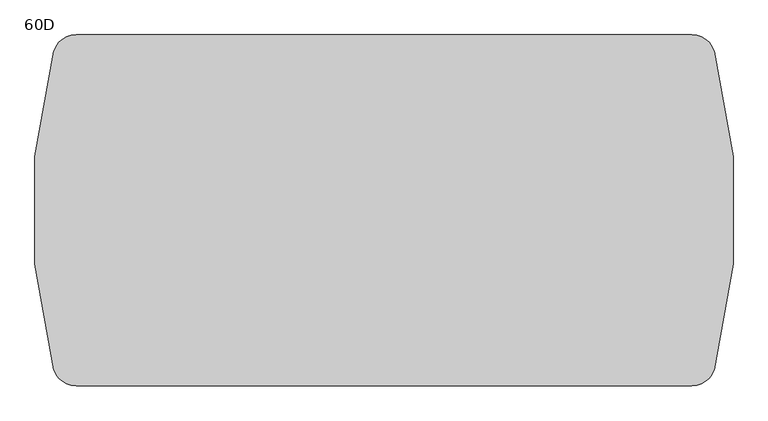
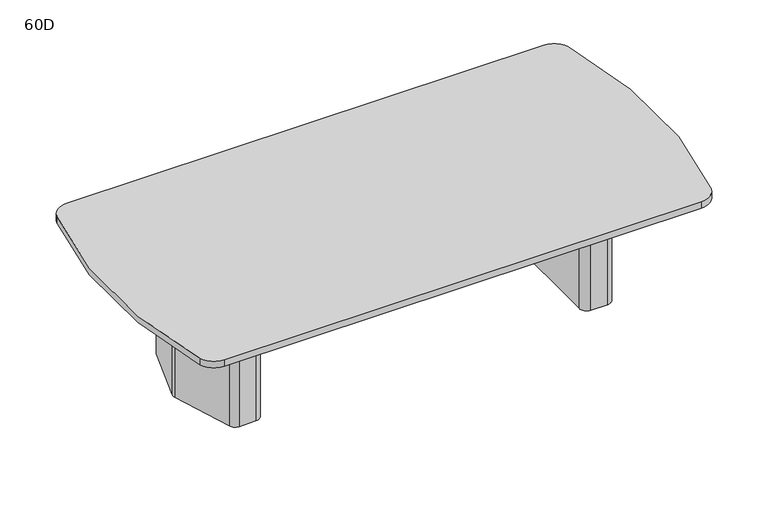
"""IFC4 building model written with IfcOpenShell, lengths in millimetres: furniture geometry, Coalesse_AM_Table_Conference_ETable2_SoftRadiused_10ft_TwoBase : 60D."""

from ifc_helpers import new_model, si_unit, point, frame, frame_2d, origin, origin_with_axes, place, context, project, spatial, polyline, circle_curve, trimmed, segment, composite_curve, outline, extrude, source, transform, mapped, element, save
from ifc_brep_helpers import plane_surface, cylinder_surface, advanced_brep


def furniture_60d_33068e7c(model_context):
    return source(origin(), model_context, "Body", "SolidModel", [
        extrude(outline(composite_curve([segment(polyline([(1122.3625, 101.7236478), (1122.3625, -97.2761514)]), True, "CONTINUOUS"), segment(trimmed(circle_curve(frame_2d((1084.2625, -97.2761514)), 38.1), [point((1122.3625, -97.2761514))], [point((1120.5991129, -108.7330515))], False, "CARTESIAN"), True, "CONTINUOUS"), segment(polyline([(1120.5991129, -108.7330515), (1062.1745591, -294.0319001)]), True, "CONTINUOUS"), segment(trimmed(circle_curve(frame_2d((1025.8379462, -282.575)), 38.1), [point((1062.1745591, -294.0319001))], [point((1025.8379462, -320.675))], False, "CARTESIAN"), True, "CONTINUOUS"), segment(polyline([(1025.8379462, -320.675), (958.85, -320.675)]), True, "CONTINUOUS"), segment(trimmed(circle_curve(frame_2d((958.85, -282.575)), 38.1), [point((958.85, -320.675))], [point((920.75, -282.575))], False, "CARTESIAN"), True, "CONTINUOUS"), segment(polyline([(920.75, -282.575), (920.75, 282.575)]), True, "CONTINUOUS"), segment(trimmed(circle_curve(frame_2d((958.85, 282.575)), 38.1), [point((920.75, 282.575))], [point((958.85, 320.675))], False, "CARTESIAN"), True, "CONTINUOUS"), segment(polyline([(958.85, 320.675), (1029.5873998, 320.675)]), True, "CONTINUOUS"), segment(trimmed(circle_curve(frame_2d((1029.5873998, 282.575)), 38.1), [point((1029.5873998, 320.675))], [point((1066.0572049, 293.6005756))], False, "CARTESIAN"), True, "CONTINUOUS"), segment(polyline([(1066.0572049, 293.6005756), (1120.7323051, 112.7492234)]), True, "CONTINUOUS"), segment(trimmed(circle_curve(frame_2d((1084.2625, 101.7236478)), 38.1), [point((1120.7323051, 112.7492234))], [point((1122.3625, 101.7236478))], False, "CARTESIAN"), True, "CONTINUOUS")], self_intersect=False)), origin_with_axes(), (0.0, 0.0, 1.0), 3.175),
        extrude(outline(composite_curve([segment(polyline([(942.975, 381.0), (1031.1221663, 381.0)]), True, "CONTINUOUS"), segment(trimmed(circle_curve(frame_2d((1031.1221663, 339.725)), 41.275), [point((1031.1221663, 381.0))], [point((1070.4868303, 352.1366418))], False, "CARTESIAN"), True, "CONTINUOUS"), segment(polyline([(1070.4868303, 352.1366418), (1177.6018053, 12.4116418)]), True, "CONTINUOUS"), segment(trimmed(circle_curve(frame_2d((1138.2371413, 0.0)), 41.275), [point((1177.6018053, 12.4116418))], [point((1177.6018053, -12.4116418))], False, "CARTESIAN"), True, "CONTINUOUS"), segment(polyline([(1177.6018053, -12.4116418), (1070.4868303, -352.1366418)]), True, "CONTINUOUS"), segment(trimmed(circle_curve(frame_2d((1031.1221663, -339.725)), 41.275), [point((1070.4868303, -352.1366418))], [point((1031.1221663, -381.0))], False, "CARTESIAN"), True, "CONTINUOUS"), segment(polyline([(1031.1221663, -381.0), (936.625, -381.0)]), True, "CONTINUOUS"), segment(trimmed(circle_curve(frame_2d((936.625, -339.725)), 41.275), [point((936.625, -381.0))], [point((895.35, -339.725))], False, "CARTESIAN"), True, "CONTINUOUS"), segment(polyline([(895.35, -339.725), (895.35, 333.375)]), True, "CONTINUOUS"), segment(trimmed(circle_curve(frame_2d((942.975, 333.375)), 47.625), [point((895.35, 333.375))], [point((942.975, 381.0))], False, "CARTESIAN"), True, "CONTINUOUS")], self_intersect=False), holes=[composite_curve([segment(trimmed(circle_curve(frame_2d((958.85, -282.575)), 25.4), [point((933.45, -282.575))], [point((958.85, -307.975))], True, "CARTESIAN"), True, "CONTINUOUS"), segment(polyline([(958.85, -307.975), (1025.8379462, -307.975)]), True, "CONTINUOUS"), segment(trimmed(circle_curve(frame_2d((1025.8379462, -282.575)), 25.4), [point((1025.8379462, -307.975))], [point((1050.0623548, -290.2129334))], True, "CARTESIAN"), True, "CONTINUOUS"), segment(polyline([(1050.0623548, -290.2129334), (1108.4869086, -104.9140848)]), True, "CONTINUOUS"), segment(trimmed(circle_curve(frame_2d((1084.2625, -97.2761514)), 25.4), [point((1108.4869086, -104.9140848))], [point((1109.6625, -97.2761514))], True, "CARTESIAN"), True, "CONTINUOUS"), segment(polyline([(1109.6625, -97.2761514), (1109.6625, 101.7236478)]), True, "CONTINUOUS"), segment(trimmed(circle_curve(frame_2d((1084.2625, 101.7236478)), 25.4), [point((1109.6625, 101.7236478))], [point((1108.5757034, 109.0740316))], True, "CARTESIAN"), True, "CONTINUOUS"), segment(polyline([(1108.5757034, 109.0740316), (1053.9006032, 289.9253837)]), True, "CONTINUOUS"), segment(trimmed(circle_curve(frame_2d((1029.5873998, 282.575)), 25.4), [point((1053.9006032, 289.9253837))], [point((1029.5873998, 307.975))], True, "CARTESIAN"), True, "CONTINUOUS"), segment(polyline([(1029.5873998, 307.975), (958.85, 307.975)]), True, "CONTINUOUS"), segment(trimmed(circle_curve(frame_2d((958.85, 282.575)), 25.4), [point((958.85, 307.975))], [point((933.45, 282.575))], True, "CARTESIAN"), True, "CONTINUOUS"), segment(polyline([(933.45, 282.575), (933.45, -282.575)]), True, "CONTINUOUS")], self_intersect=False)]), frame((0.0, 0.0, 3.175), z_axis=(0.0, 0.0, 1.0), x_axis=(1.0, 0.0, 0.0)), (0.0, 0.0, 1.0), 695.325),
        extrude(outline(composite_curve([segment(trimmed(circle_curve(frame_2d((-1084.2625, 101.7236478)), 38.1), [point((-1122.3625, 101.7236478))], [point((-1120.7323051, 112.7492234))], False, "CARTESIAN"), True, "CONTINUOUS"), segment(polyline([(-1120.7323051, 112.7492234), (-1066.0572049, 293.6005756)]), True, "CONTINUOUS"), segment(trimmed(circle_curve(frame_2d((-1029.5873998, 282.575)), 38.1), [point((-1066.0572049, 293.6005756))], [point((-1029.5873998, 320.675))], False, "CARTESIAN"), True, "CONTINUOUS"), segment(polyline([(-1029.5873998, 320.675), (-958.85, 320.675)]), True, "CONTINUOUS"), segment(trimmed(circle_curve(frame_2d((-958.85, 282.575)), 38.1), [point((-958.85, 320.675))], [point((-920.75, 282.575))], False, "CARTESIAN"), True, "CONTINUOUS"), segment(polyline([(-920.75, 282.575), (-920.75, -282.575)]), True, "CONTINUOUS"), segment(trimmed(circle_curve(frame_2d((-958.85, -282.575)), 38.1), [point((-920.75, -282.575))], [point((-958.85, -320.675))], False, "CARTESIAN"), True, "CONTINUOUS"), segment(polyline([(-958.85, -320.675), (-1025.8379462, -320.675)]), True, "CONTINUOUS"), segment(trimmed(circle_curve(frame_2d((-1025.8379462, -282.575)), 38.1), [point((-1025.8379462, -320.675))], [point((-1062.1745591, -294.0319001))], False, "CARTESIAN"), True, "CONTINUOUS"), segment(polyline([(-1062.1745591, -294.0319001), (-1120.5991129, -108.7330515)]), True, "CONTINUOUS"), segment(trimmed(circle_curve(frame_2d((-1084.2625, -97.2761514)), 38.1), [point((-1120.5991129, -108.7330515))], [point((-1122.3625, -97.2761514))], False, "CARTESIAN"), True, "CONTINUOUS"), segment(polyline([(-1122.3625, -97.2761514), (-1122.3625, 101.7236478)]), True, "CONTINUOUS")], self_intersect=False)), origin_with_axes(), (0.0, 0.0, 1.0), 3.175),
        extrude(outline(composite_curve([segment(trimmed(circle_curve(frame_2d((-942.975, 333.375)), 47.625), [point((-942.975, 381.0))], [point((-895.35, 333.375))], False, "CARTESIAN"), True, "CONTINUOUS"), segment(polyline([(-895.35, 333.375), (-895.35, -339.725)]), True, "CONTINUOUS"), segment(trimmed(circle_curve(frame_2d((-936.625, -339.725)), 41.275), [point((-895.35, -339.725))], [point((-936.625, -381.0))], False, "CARTESIAN"), True, "CONTINUOUS"), segment(polyline([(-936.625, -381.0), (-1031.1221663, -381.0)]), True, "CONTINUOUS"), segment(trimmed(circle_curve(frame_2d((-1031.1221663, -339.725)), 41.275), [point((-1031.1221663, -381.0))], [point((-1070.4868303, -352.1366418))], False, "CARTESIAN"), True, "CONTINUOUS"), segment(polyline([(-1070.4868303, -352.1366418), (-1177.6018053, -12.4116418)]), True, "CONTINUOUS"), segment(trimmed(circle_curve(frame_2d((-1138.2371413, 0.0)), 41.275), [point((-1177.6018053, -12.4116418))], [point((-1177.6018053, 12.4116418))], False, "CARTESIAN"), True, "CONTINUOUS"), segment(polyline([(-1177.6018053, 12.4116418), (-1070.4868303, 352.1366418)]), True, "CONTINUOUS"), segment(trimmed(circle_curve(frame_2d((-1031.1221663, 339.725)), 41.275), [point((-1070.4868303, 352.1366418))], [point((-1031.1221663, 381.0))], False, "CARTESIAN"), True, "CONTINUOUS"), segment(polyline([(-1031.1221663, 381.0), (-942.975, 381.0)]), True, "CONTINUOUS")], self_intersect=False), holes=[composite_curve([segment(polyline([(-933.45, -282.575), (-933.45, 282.575)]), True, "CONTINUOUS"), segment(trimmed(circle_curve(frame_2d((-958.85, 282.575)), 25.4), [point((-933.45, 282.575))], [point((-958.85, 307.975))], True, "CARTESIAN"), True, "CONTINUOUS"), segment(polyline([(-958.85, 307.975), (-1029.5873998, 307.975)]), True, "CONTINUOUS"), segment(trimmed(circle_curve(frame_2d((-1029.5873998, 282.575)), 25.4), [point((-1029.5873998, 307.975))], [point((-1053.9006032, 289.9253837))], True, "CARTESIAN"), True, "CONTINUOUS"), segment(polyline([(-1053.9006032, 289.9253837), (-1108.5757034, 109.0740316)]), True, "CONTINUOUS"), segment(trimmed(circle_curve(frame_2d((-1084.2625, 101.7236478)), 25.4), [point((-1108.5757034, 109.0740316))], [point((-1109.6625, 101.7236478))], True, "CARTESIAN"), True, "CONTINUOUS"), segment(polyline([(-1109.6625, 101.7236478), (-1109.6625, -97.2761514)]), True, "CONTINUOUS"), segment(trimmed(circle_curve(frame_2d((-1084.2625, -97.2761514)), 25.4), [point((-1109.6625, -97.2761514))], [point((-1108.4869086, -104.9140848))], True, "CARTESIAN"), True, "CONTINUOUS"), segment(polyline([(-1108.4869086, -104.9140848), (-1050.0623548, -290.2129334)]), True, "CONTINUOUS"), segment(trimmed(circle_curve(frame_2d((-1025.8379462, -282.575)), 25.4), [point((-1050.0623548, -290.2129334))], [point((-1025.8379462, -307.975))], True, "CARTESIAN"), True, "CONTINUOUS"), segment(polyline([(-1025.8379462, -307.975), (-958.85, -307.975)]), True, "CONTINUOUS"), segment(trimmed(circle_curve(frame_2d((-958.85, -282.575)), 25.4), [point((-958.85, -307.975))], [point((-933.45, -282.575))], True, "CARTESIAN"), True, "CONTINUOUS")], self_intersect=False)]), frame((0.0, 0.0, 3.175), z_axis=(0.0, 0.0, 1.0), x_axis=(1.0, 0.0, 0.0)), (0.0, 0.0, 1.0), 695.325),
        extrude(outline(polyline([(96.8375, 698.5), (103.1875, 698.5), (103.1875, 476.25), (-103.1875, 476.25), (-103.1875, 698.5), (-96.8375, 698.5), (-96.8375, 482.6), (96.8375, 482.6), (96.8375, 698.5)])), frame((-895.35, 0.0, 0.0), z_axis=(1.0, 0.0, 0.0), x_axis=(0.0, 1.0, 0.0)), (0.0, 0.0, 1.0), 1790.7),
        advanced_brep(
        [(-1335.2420702, 762.0, 736.6), (-1431.0315996, 694.2662966, 736.6), (-1431.7818993, 692.1441026, 736.6), (-1431.7818993, -692.1441026, 736.6), (-1431.0315996, -694.2662966, 736.6), (-1335.2417376, -762.0, 736.6), (1335.2420702, -762.0, 736.6), (1431.0315996, -694.2662966, 736.6), (1431.7818993, -692.1441026, 736.6), (1431.7818993, 692.1441026, 736.6), (1431.0315996, 694.2662966, 736.6), (1335.2420702, 762.0, 736.6), (-1335.2420702, 762.0, 698.5), (1335.2420702, 762.0, 698.5), (1431.0315996, 694.2662966, 698.5), (1431.7818993, 692.1441026, 698.5), (1431.7818993, -692.1441026, 698.5), (1431.0315996, -694.2662966, 698.5), (1335.2420702, -762.0, 698.5), (-1335.2417376, -762.0, 698.5), (-1431.0312448, -694.2663594, 698.5), (-1431.7818993, -692.1441026, 698.5), (-1431.7818993, 692.1441026, 698.5), (-1431.0315996, 694.2662966, 698.5)],
        [
            (0, 1, circle_curve(frame((-1335.2420702, 660.4, 736.6), z_axis=(0.0, 0.0, 1.0), x_axis=(1.0, 0.0, 0.0)), 101.6)),
            (1, 2),
            (2, 3, circle_curve(frame((1108.5294614, 0.0, 736.6), z_axis=(0.0, 0.0, 1.0), x_axis=(1.0, 0.0, 0.0)), 2632.9157351)),
            (3, 4),
            (4, 5, circle_curve(frame((-1335.2417376, -660.4, 736.6), z_axis=(0.0, 0.0, 1.0), x_axis=(1.0, 0.0, 0.0)), 101.6)),
            (5, 6),
            (6, 7, circle_curve(frame((1335.2420702, -660.4, 736.6), z_axis=(0.0, 0.0, 1.0), x_axis=(1.0, 0.0, 0.0)), 101.6)),
            (7, 8),
            (8, 9, circle_curve(frame((-1108.5294614, 0.0, 736.6), z_axis=(0.0, 0.0, 1.0), x_axis=(1.0, 0.0, 0.0)), 2632.9157351)),
            (9, 10),
            (10, 11, circle_curve(frame((1335.2420702, 660.4, 736.6), z_axis=(0.0, 0.0, 1.0), x_axis=(1.0, 0.0, 0.0)), 101.6)),
            (11, 0),
            (12, 13),
            (13, 14, circle_curve(frame((1335.2420702, 660.4, 698.5), z_axis=(0.0, 0.0, -1.0), x_axis=(1.0, 0.0, 0.0)), 101.6)),
            (14, 15),
            (15, 16, circle_curve(frame((-1108.5294614, 0.0, 698.5), z_axis=(0.0, 0.0, -1.0), x_axis=(1.0, 0.0, 0.0)), 2632.9157351)),
            (16, 17),
            (17, 18, circle_curve(frame((1335.2420702, -660.4, 698.5), z_axis=(0.0, 0.0, -1.0), x_axis=(1.0, 0.0, 0.0)), 101.6)),
            (18, 19),
            (19, 20, circle_curve(frame((-1335.2417376, -660.4, 698.5), z_axis=(0.0, 0.0, -1.0), x_axis=(1.0, 0.0, 0.0)), 101.6)),
            (20, 21),
            (21, 22, circle_curve(frame((1108.5294614, 0.0, 698.5), z_axis=(0.0, 0.0, -1.0), x_axis=(1.0, 0.0, 0.0)), 2632.9157351)),
            (22, 23),
            (23, 12, circle_curve(frame((-1335.2420702, 660.4, 698.5), z_axis=(0.0, 0.0, -1.0), x_axis=(1.0, 0.0, 0.0)), 101.6)),
            (0, 12),
            (23, 1),
            (22, 2),
            (21, 3),
            (20, 4),
            (19, 5),
            (18, 6),
            (17, 7),
            (16, 8),
            (15, 9),
            (14, 10),
            (13, 11),
        ],
        [
            plane_surface(frame((-1233.6420702, 660.4, 736.6), z_axis=(0.0, 0.0, 1.0), x_axis=(0.0, 1.0, 0.0))),
            plane_surface(frame((-1233.6420702, 660.4, 698.5), z_axis=(0.0, 0.0, -1.0), x_axis=(0.0, -1.0, 0.0))),
            cylinder_surface(frame((-1335.2420702, 660.4, 698.5), z_axis=(0.0, 0.0, 1.0), x_axis=(1.0, 0.0, 0.0)), 101.6),
            plane_surface(frame((-1431.0315996, 694.2662966, 736.6), z_axis=(-0.9428103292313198, 0.3333296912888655, 0.0), x_axis=(0.0, 0.0, -1.0))),
            cylinder_surface(frame((1108.5294614, 0.0, 698.5), z_axis=(0.0, 0.0, 1.0), x_axis=(1.0, 0.0, 0.0)), 2632.9157351),
            plane_surface(frame((-1431.7818993, -692.1441026, 736.6), z_axis=(-0.9428103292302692, -0.33332969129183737, 0.0), x_axis=(0.0, 0.0, -1.0))),
            cylinder_surface(frame((-1335.2417376, -660.4, 698.5), z_axis=(0.0, 0.0, 1.0), x_axis=(1.0, 0.0, 0.0)), 101.6),
            plane_surface(frame((-1335.2417376, -762.0, 736.6), z_axis=(0.0, -1.0, 0.0), x_axis=(0.0, 0.0, -1.0))),
            cylinder_surface(frame((1335.2420702, -660.4, 698.5), z_axis=(0.0, 0.0, 1.0), x_axis=(1.0, 0.0, 0.0)), 101.6),
            plane_surface(frame((1431.0315996, -694.2662966, 736.6), z_axis=(0.942810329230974, -0.3333296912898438, 0.0), x_axis=(0.0, 0.0, -1.0))),
            cylinder_surface(frame((-1108.5294614, 0.0, 698.5), z_axis=(0.0, 0.0, 1.0), x_axis=(1.0, 0.0, 0.0)), 2632.9157351),
            plane_surface(frame((1431.7818993, 692.1441026, 736.6), z_axis=(0.942810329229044, 0.33332969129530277, 0.0), x_axis=(0.0, 0.0, -1.0))),
            cylinder_surface(frame((1335.2420702, 660.4, 698.5), z_axis=(0.0, 0.0, 1.0), x_axis=(1.0, 0.0, 0.0)), 101.6),
            plane_surface(frame((1335.2420702, 762.0, 736.6), z_axis=(0.0, 1.0, 0.0), x_axis=(0.0, 0.0, -1.0))),
        ],
        [
            (0, [[1, 2, 3, 4, 5, 6, 7, 8, 9, 10, 11, 12]]),
            (1, [[13, 14, 15, 16, 17, 18, 19, 20, 21, 22, 23, 24]]),
            (2, [[-1, 25, -24, 26]]),
            (3, [[-2, -26, -23, 27]]),
            (4, [[-3, -27, -22, 28]]),
            (5, [[-4, -28, -21, 29]]),
            (6, [[-5, -29, -20, 30]]),
            (7, [[-6, -30, -19, 31]]),
            (8, [[-7, -31, -18, 32]]),
            (9, [[-8, -32, -17, 33]]),
            (10, [[-9, -33, -16, 34]]),
            (11, [[-10, -34, -15, 35]]),
            (12, [[-11, -35, -14, 36]]),
            (13, [[-12, -36, -13, -25]]),
        ],
    ),
    ])


if __name__ == "__main__":
    model = new_model("IFC4")
    model_context = context("Model", 3, world=origin())
    ifc_project = project(units=[si_unit("LENGTHUNIT", "METRE", prefix="MILLI")], contexts=[model_context])
    site = spatial("IfcSite", under=ifc_project)
    building = spatial("IfcBuilding", under=site)
    placement = place(None, origin())
    furniture_60d_shape = furniture_60d_33068e7c(model_context)
    element("IfcFurniture", 1, ObjectType="Coalesse_AM_Table_Conference_ETable2_SoftRadiused_10ft_TwoBase : 60D", at=placement, inside=building, context=model_context, shape_type="MappedRepresentation", body=[
        mapped(furniture_60d_shape, transform((0.0, 0.0, 0.0), x_axis=(1.0, 0.0, 0.0), y_axis=(0.0, 1.0, 0.0), z_axis=(0.0, 0.0, 1.0))),
    ])
    save(model, "model.ifc")
